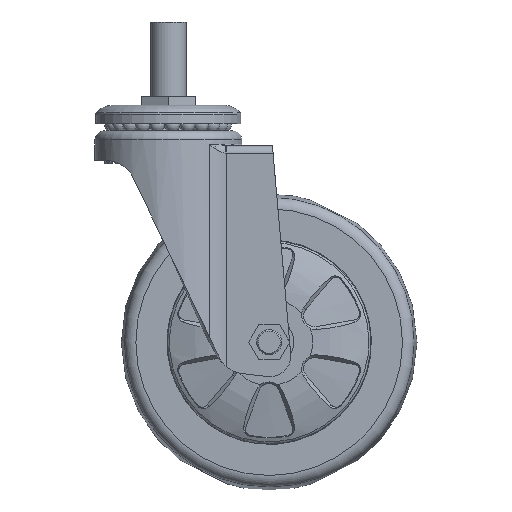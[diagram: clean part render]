
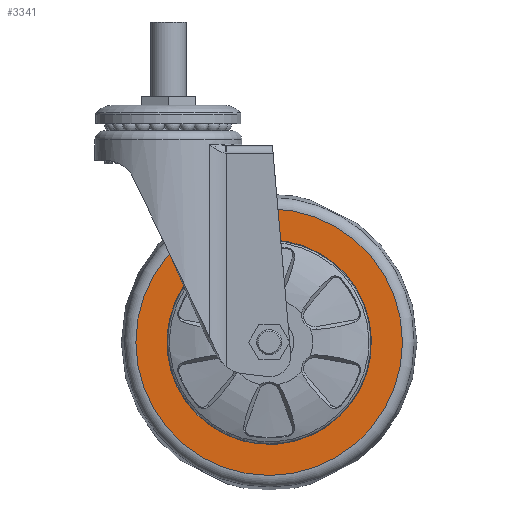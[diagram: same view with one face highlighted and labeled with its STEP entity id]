
A CAD part, front view. The second image highlights one B-rep face of the part: STEP entity #3341.
In plain terms, the highlighted planar face has unit normal (0, -1, 0).
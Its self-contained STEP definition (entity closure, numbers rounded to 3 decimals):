
#3341=ADVANCED_FACE('',(#4440,#4441),#4098,.F.);
#4098=PLANE('',#13292);
#4440=FACE_BOUND('',#4709,.T.);
#4441=FACE_BOUND('',#4710,.T.);
#4709=EDGE_LOOP('',(#5735));
#4710=EDGE_LOOP('',(#5736));
#5735=ORIENTED_EDGE('',*,*,#11035,.F.);
#5736=ORIENTED_EDGE('',*,*,#11036,.T.);
#9693=VERTEX_POINT('',#18025);
#9694=VERTEX_POINT('',#18027);
#11035=EDGE_CURVE('',#9693,#9693,#12898,.T.);
#11036=EDGE_CURVE('',#9694,#9694,#12899,.T.);
#12898=CIRCLE('',#13290,34.495);
#12899=CIRCLE('',#13291,44.969);
#13290=AXIS2_PLACEMENT_3D('',#18024,#14358,#14359);
#13291=AXIS2_PLACEMENT_3D('',#18026,#14360,#14361);
#13292=AXIS2_PLACEMENT_3D('',#18028,#14362,#14363);
#14358=DIRECTION('',(0.,-1.,0.));
#14359=DIRECTION('',(0.,0.,1.));
#14360=DIRECTION('',(0.,-1.,0.));
#14361=DIRECTION('',(0.,0.,1.));
#14362=DIRECTION('',(0.,1.,0.));
#14363=DIRECTION('',(0.,0.,-1.));
#18024=CARTESIAN_POINT('',(34.,-12.778,-108.));
#18025=CARTESIAN_POINT('',(34.,-12.778,-73.505));
#18026=CARTESIAN_POINT('',(34.,-12.778,-108.));
#18027=CARTESIAN_POINT('',(34.,-12.778,-63.031));
#18028=CARTESIAN_POINT('',(34.,-12.778,-108.));
